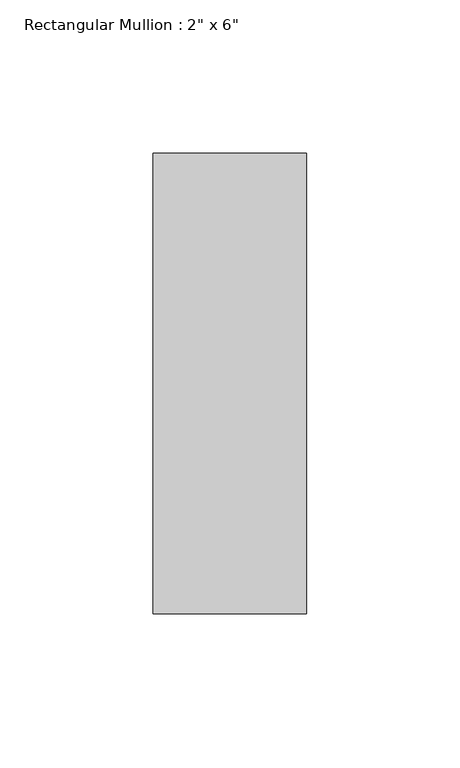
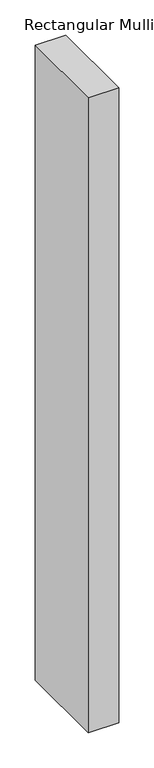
"""IFC4 building model written with IfcOpenShell, lengths in millimetres: member geometry."""

from ifc_helpers import new_model, si_unit, frame, origin, place, context, project, spatial, polyline, outline, extrude, source, transform, mapped, element, save


def member_321a0c18(model_context):
    return source(origin(), model_context, "Body", "SweptSolid", [
        extrude(outline(polyline([(0.0, 0.0), (0.0, -150.0), (-50.0, -150.0), (-50.0, 0.0), (0.0, 0.0)])), frame((0.0, 0.0, -1099.9999995), z_axis=(0.0, 0.0, 1.0), x_axis=(1.0, 0.0, 0.0)), (0.0, 0.0, 1.0), 1099.9999995),
    ])


if __name__ == "__main__":
    model = new_model("IFC4")
    model_context = context("Model", 3, world=origin())
    ifc_project = project(units=[si_unit("LENGTHUNIT", "METRE", prefix="MILLI")], contexts=[model_context])
    site = spatial("IfcSite", under=ifc_project)
    building = spatial("IfcBuilding", under=site)
    placement = place(None, origin())
    member_shape = member_321a0c18(model_context)
    element("IfcMember", 1, ObjectType="Rectangular Mullion : 2\" x 6\"", at=placement, inside=building, context=model_context, shape_type="MappedRepresentation", body=[
        mapped(member_shape, transform((0.0, 0.0, 0.0), x_axis=(1.0, 0.0, 0.0), y_axis=(0.0, 1.0, 0.0), z_axis=(0.0, 0.0, 1.0))),
    ])
    save(model, "model.ifc")
